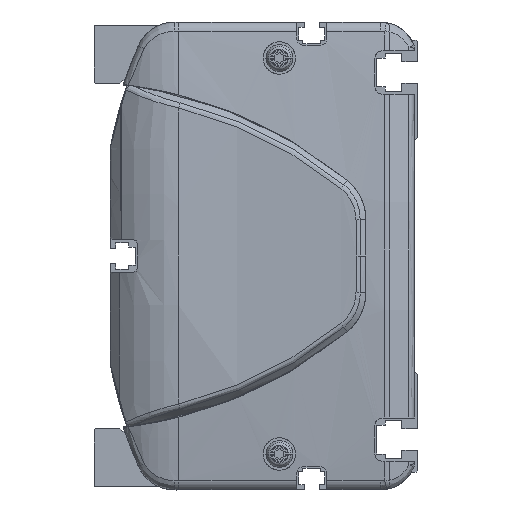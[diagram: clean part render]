
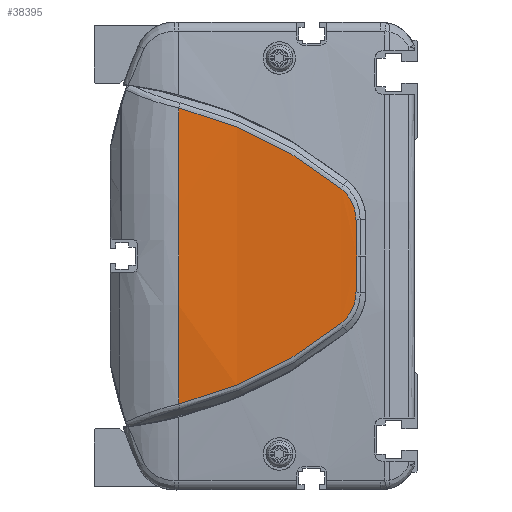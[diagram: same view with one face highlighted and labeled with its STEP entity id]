
A CAD part, left-side view. The second image highlights one B-rep face of the part: STEP entity #38395.
In plain terms, the highlighted cylindrical face has radius 500 mm (diameter 1000 mm), a partial arc.
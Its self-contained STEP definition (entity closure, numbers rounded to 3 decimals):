
#34631=CARTESIAN_POINT('',(486.,66.362,0.));
#34632=DIRECTION('',(0.,-1.,0.));
#34633=DIRECTION('',(-0.997,0.,0.082));
#34634=AXIS2_PLACEMENT_3D('',#34631,#34632,#34633);
#35514=CARTESIAN_POINT('',(-13.648,21.313,
-18.759));
#35515=CARTESIAN_POINT('',(-13.449,27.904,
-24.058));
#35516=CARTESIAN_POINT('',(-12.934,42.195,
-33.27));
#35517=CARTESIAN_POINT('',(-12.471,58.156,
-39.127));
#35518=CARTESIAN_POINT('',(-12.306,66.362,
-41.121));
#35520=CARTESIAN_POINT('',(-12.306,66.362,
41.121));
#35521=CARTESIAN_POINT('',(-12.471,58.156,
39.127));
#35522=CARTESIAN_POINT('',(-12.934,42.195,
33.27));
#35523=CARTESIAN_POINT('',(-13.449,27.904,
24.058));
#35524=CARTESIAN_POINT('',(-13.648,21.313,
18.759));
#35526=CARTESIAN_POINT('',(-13.648,21.313,
18.759));
#35527=CARTESIAN_POINT('',(-13.686,20.035,
17.736));
#35528=CARTESIAN_POINT('',(-13.779,17.936,
15.107));
#35529=CARTESIAN_POINT('',(-13.863,17.152,
11.827));
#35530=CARTESIAN_POINT('',(-13.896,17.124,
10.178));
#35532=CARTESIAN_POINT('',(-13.896,17.124,
10.178));
#35533=CARTESIAN_POINT('',(-13.92,17.107,
9.025));
#35534=CARTESIAN_POINT('',(-13.959,17.067,
6.733));
#35535=CARTESIAN_POINT('',(-13.993,16.98,
3.339));
#35536=CARTESIAN_POINT('',(-14.,16.898,
1.108));
#35537=CARTESIAN_POINT('',(-14.,16.849,
0.));
#35539=CARTESIAN_POINT('',(-14.,16.849,
0.));
#35540=CARTESIAN_POINT('',(-14.,16.898,
-1.108));
#35541=CARTESIAN_POINT('',(-13.993,16.98,
-3.339));
#35542=CARTESIAN_POINT('',(-13.959,17.067,
-6.732));
#35543=CARTESIAN_POINT('',(-13.92,17.107,
-9.027));
#35544=CARTESIAN_POINT('',(-13.896,17.124,
-10.18));
#35546=CARTESIAN_POINT('',(-13.896,17.124,
-10.18));
#35547=CARTESIAN_POINT('',(-13.863,17.152,
-11.828));
#35548=CARTESIAN_POINT('',(-13.779,17.937,
-15.109));
#35549=CARTESIAN_POINT('',(-13.686,20.035,
-17.736));
#35550=CARTESIAN_POINT('',(-13.648,21.313,
-18.759));
#36217=VERTEX_POINT('',#35514);
#36218=VERTEX_POINT('',#35518);
#36219=CARTESIAN_POINT('',(-12.306,66.362,
41.121));
#36220=VERTEX_POINT('',#36219);
#36221=VERTEX_POINT('',#35524);
#36222=VERTEX_POINT('',#35530);
#36223=VERTEX_POINT('',#35537);
#36224=VERTEX_POINT('',#35544);
#38376=CARTESIAN_POINT('',(486.,8.006,0.));
#38377=DIRECTION('',(0.,1.,0.));
#38378=DIRECTION('',(1.,0.,0.));
#38379=AXIS2_PLACEMENT_3D('',#38376,#38377,#38378);
#38380=CYLINDRICAL_SURFACE('',#38379,500.);
#38382=ORIENTED_EDGE('',*,*,#38381,.T.);
#38383=ORIENTED_EDGE('',*,*,#37019,.F.);
#38385=ORIENTED_EDGE('',*,*,#38384,.T.);
#38387=ORIENTED_EDGE('',*,*,#38386,.T.);
#38389=ORIENTED_EDGE('',*,*,#38388,.T.);
#38391=ORIENTED_EDGE('',*,*,#38390,.T.);
#38392=ORIENTED_EDGE('',*,*,#38366,.T.);
#38393=EDGE_LOOP('',(#38382,#38383,#38385,#38387,#38389,#38391,#38392));
#38394=FACE_OUTER_BOUND('',#38393,.F.);
#38395=ADVANCED_FACE('',(#38394),#38380,.T.);
#34635=CIRCLE('',#34634,500.);
#35519=B_SPLINE_CURVE_WITH_KNOTS('',3,(#35514,#35515,#35516,#35517,#35518),
.UNSPECIFIED.,.F.,.F.,(4,1,4),(0.,0.5,1.),.UNSPECIFIED.);
#35525=B_SPLINE_CURVE_WITH_KNOTS('',3,(#35520,#35521,#35522,#35523,#35524),
.UNSPECIFIED.,.F.,.F.,(4,1,4),(0.,0.5,1.),.UNSPECIFIED.);
#35531=B_SPLINE_CURVE_WITH_KNOTS('',3,(#35526,#35527,#35528,#35529,#35530),
.UNSPECIFIED.,.F.,.F.,(4,1,4),(0.,0.5,1.),.UNSPECIFIED.);
#35538=B_SPLINE_CURVE_WITH_KNOTS('',3,(#35532,#35533,#35534,#35535,#35536,
#35537),.UNSPECIFIED.,.F.,.F.,(4,1,1,4),(0.,0.333,
0.667,1.),.UNSPECIFIED.);
#35545=B_SPLINE_CURVE_WITH_KNOTS('',3,(#35539,#35540,#35541,#35542,#35543,
#35544),.UNSPECIFIED.,.F.,.F.,(4,1,1,4),(0.,0.333,
0.667,1.),.UNSPECIFIED.);
#35551=B_SPLINE_CURVE_WITH_KNOTS('',3,(#35546,#35547,#35548,#35549,#35550),
.UNSPECIFIED.,.F.,.F.,(4,1,4),(0.,0.5,1.),.UNSPECIFIED.);
#37019=EDGE_CURVE('',#36220,#36218,#34635,.T.);
#38366=EDGE_CURVE('',#36224,#36217,#35551,.T.);
#38381=EDGE_CURVE('',#36217,#36218,#35519,.T.);
#38384=EDGE_CURVE('',#36220,#36221,#35525,.T.);
#38386=EDGE_CURVE('',#36221,#36222,#35531,.T.);
#38388=EDGE_CURVE('',#36222,#36223,#35538,.T.);
#38390=EDGE_CURVE('',#36223,#36224,#35545,.T.);
